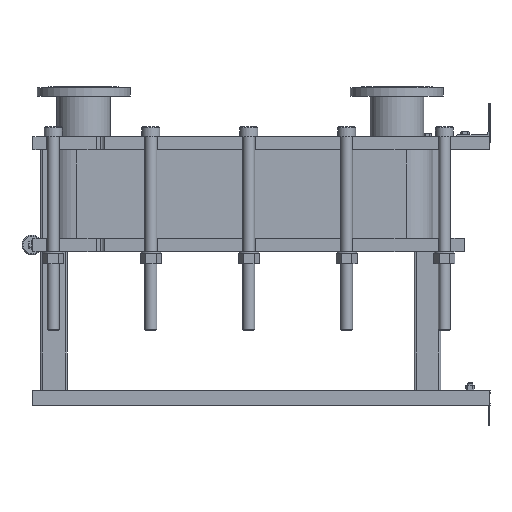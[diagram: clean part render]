
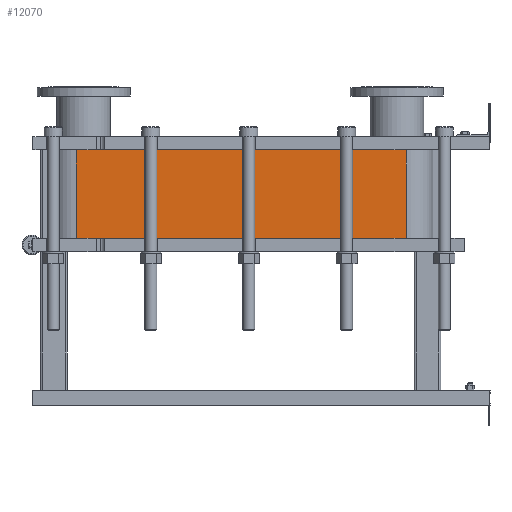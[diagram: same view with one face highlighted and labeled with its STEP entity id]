
A CAD part, left-side view. The second image highlights one B-rep face of the part: STEP entity #12070.
In plain terms, the highlighted planar face has unit normal (-1, 0, 0).
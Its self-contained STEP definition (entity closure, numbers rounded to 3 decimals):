
#1064=LINE('',#21140,#2164);
#1065=LINE('',#21144,#2165);
#1066=LINE('',#21146,#2166);
#1067=LINE('',#21147,#2167);
#2164=VECTOR('',#15790,10.);
#2165=VECTOR('',#15795,10.);
#2166=VECTOR('',#15796,10.);
#2167=VECTOR('',#15797,10.);
#3304=FACE_OUTER_BOUND('',#4091,.T.);
#4091=EDGE_LOOP('',(#9793,#9794,#9795,#9796));
#5677=VERTEX_POINT('',#21137);
#5678=VERTEX_POINT('',#21139);
#5679=VERTEX_POINT('',#21143);
#5680=VERTEX_POINT('',#21145);
#7118=EDGE_CURVE('',#5678,#5677,#1064,.T.);
#7120=EDGE_CURVE('',#5677,#5679,#1065,.T.);
#7121=EDGE_CURVE('',#5680,#5679,#1066,.T.);
#7122=EDGE_CURVE('',#5680,#5678,#1067,.T.);
#9793=ORIENTED_EDGE('',*,*,#7120,.T.);
#9794=ORIENTED_EDGE('',*,*,#7121,.F.);
#9795=ORIENTED_EDGE('',*,*,#7122,.T.);
#9796=ORIENTED_EDGE('',*,*,#7118,.T.);
#11441=PLANE('',#13191);
#12070=ADVANCED_FACE('',(#3304),#11441,.T.);
#13191=AXIS2_PLACEMENT_3D('',#21142,#15793,#15794);
#15790=DIRECTION('',(0.,0.,-1.));
#15793=DIRECTION('center_axis',(-1.,0.,0.));
#15794=DIRECTION('ref_axis',(0.,1.,0.));
#15795=DIRECTION('',(0.,-1.,0.));
#15796=DIRECTION('',(0.,0.,-1.));
#15797=DIRECTION('',(0.,1.,0.));
#21137=CARTESIAN_POINT('',(-248.152,1243.818,-265.65));
#21139=CARTESIAN_POINT('',(-248.152,1243.818,0.));
#21140=CARTESIAN_POINT('',(-248.152,1243.818,0.));
#21142=CARTESIAN_POINT('Origin',(-248.152,251.818,0.));
#21143=CARTESIAN_POINT('',(-248.152,251.818,-265.65));
#21144=CARTESIAN_POINT('',(-248.152,499.818,-265.65));
#21145=CARTESIAN_POINT('',(-248.152,251.818,0.));
#21146=CARTESIAN_POINT('',(-248.152,251.818,0.));
#21147=CARTESIAN_POINT('',(-248.152,251.818,0.));
